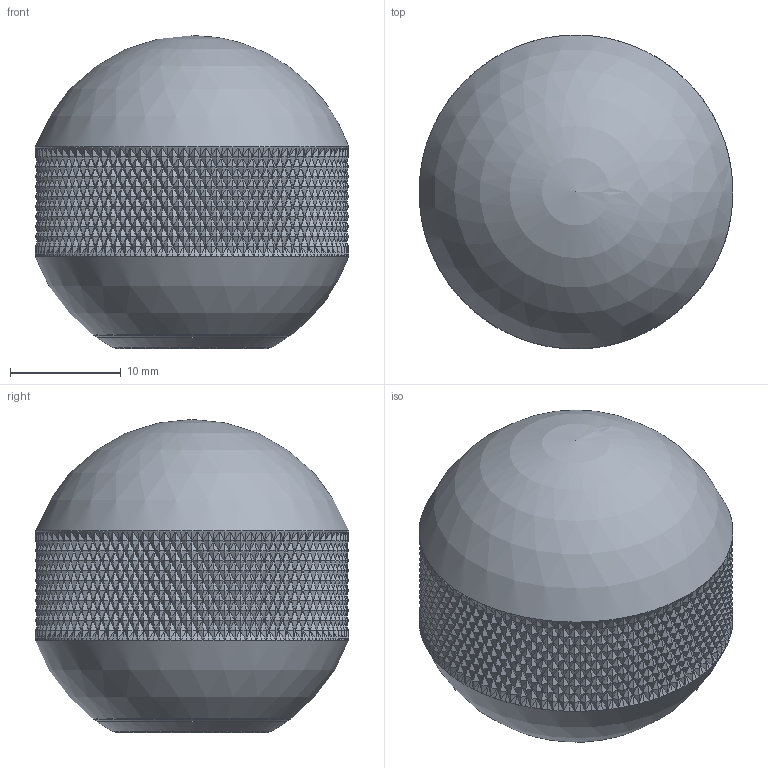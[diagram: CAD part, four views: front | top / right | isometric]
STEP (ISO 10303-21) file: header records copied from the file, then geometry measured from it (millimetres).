
FILE_DESCRIPTION(('Open CASCADE Model'),'2;1');
FILE_NAME('GR-BALL-knob-30','2026-10-19T21:25:41',('Author'),( 'Open CASCADE'),'Open CASCADE STEP processor 8.0','build123d', 'Unknown');
FILE_SCHEMA(('AUTOMOTIVE_DESIGN { 1 0 10303 214 1 1 1 1 }'));
Length unit declared in the file: millimetre
Products named in the file (2): GR-BALL-knob-30; brass_GR-BALL30__k
Assembly tree (1 placements, depth 2):
  GR-BALL-knob-30
    brass_GR-BALL30__k
Bounding box: 28.33 x 28.33 x 28.27 mm (x, y, z)
Volume: 13193.8 mm3; surface area: 3126.3 mm2
Topology: 1 solids, 1 shells, 4284 faces, 6428 edges, 2147 vertices
Faces by surface type: plane 4275, sphere 3, cylinder 3, cone 2, bspline 1
Full cylindrical faces by diameter (mm): 3.3 x1, 5.1 x1, 17.866 x1
Entity records: 161918 total; most frequent: CARTESIAN_POINT 31528, DIRECTION 22515, ORIENTED_EDGE 12854, PCURVE 12854, DEFINITIONAL_REPRESENTATION 12854, LINE 12851, VECTOR 12851, EDGE_CURVE 6427
